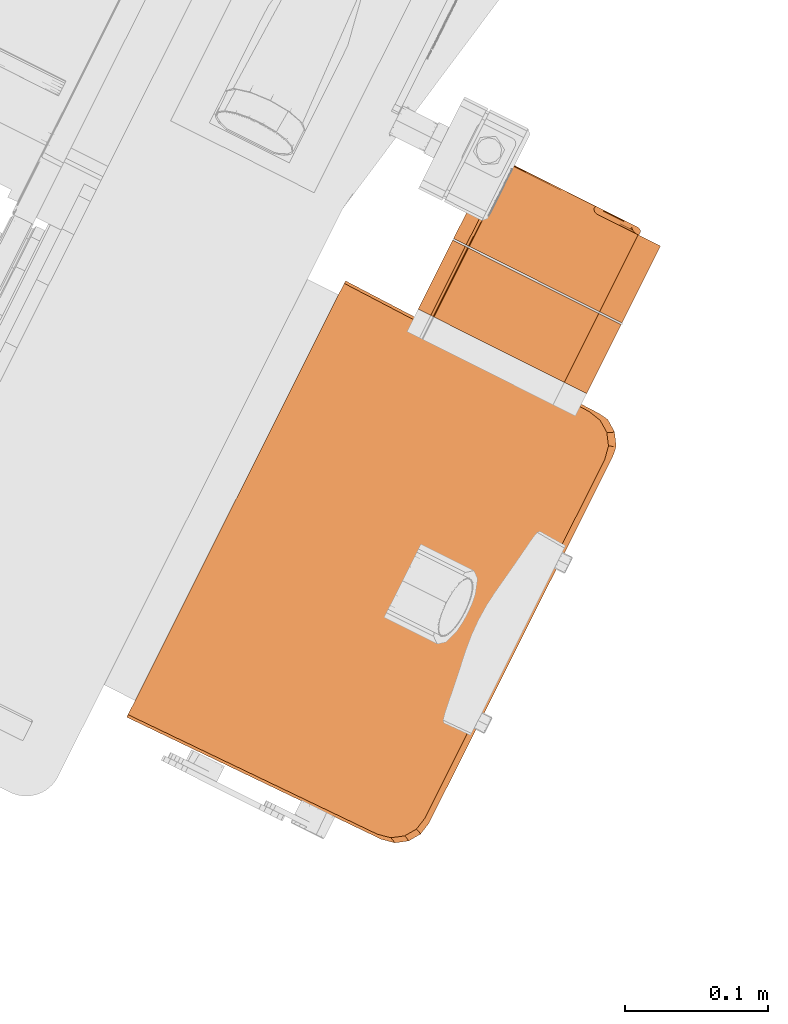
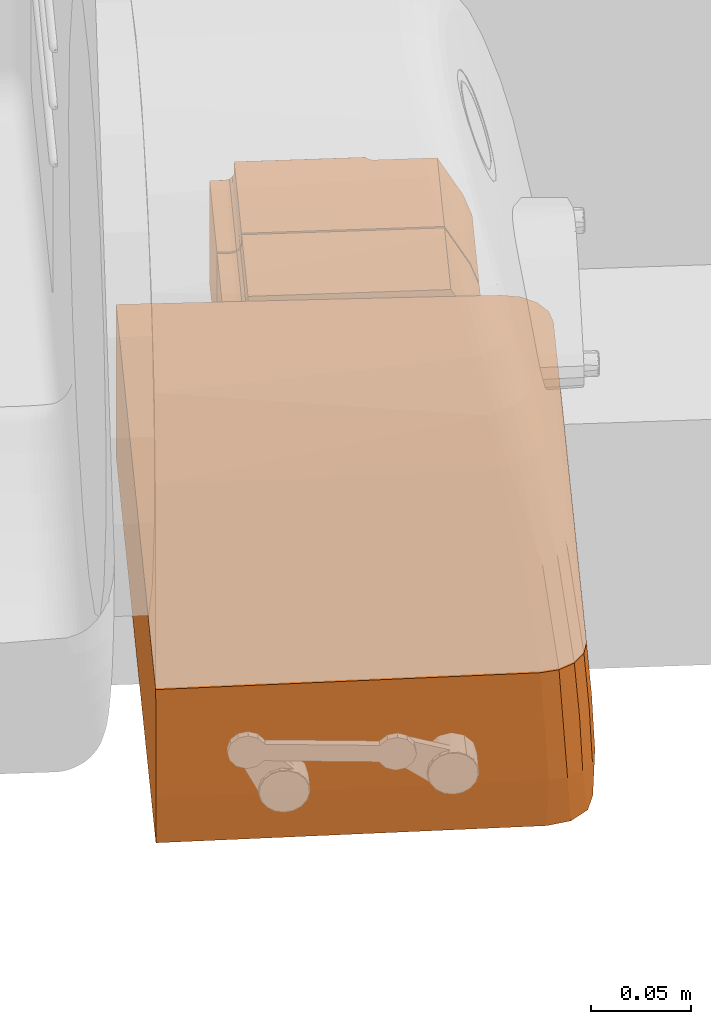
# One storey, part 185 of 206: 3 proxies.
"""IFC2X3 building model written with IfcOpenShell, lengths in metres."""

from ifc_helpers import new_model, si_unit, derived_unit, direction, frame, origin, place, context, subcontext, project, spatial, face_set, faceted_brep, surface_model, source, transform, mapped, material, type_object, type_shapes, element, save


model = new_model("IFC2X3")

# Units and contexts
model_context = context("Model", 3, precision=5.2338327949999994e-05, world=origin(), true_north=direction((0.0, 1.0)))
body_context = subcontext(model_context, "Body", "Model", "MODEL_VIEW")
ifc_project = project(units=[si_unit("LENGTHUNIT", "METRE"), si_unit("AREAUNIT", "SQUARE_METRE"), si_unit("VOLUMEUNIT", "CUBIC_METRE"), si_unit("MASSUNIT", "GRAM", prefix="KILO"), si_unit("PLANEANGLEUNIT", "RADIAN"), derived_unit("THERMALTRANSMITTANCEUNIT", [(si_unit("MASSUNIT", "GRAM", prefix="KILO"), 1), (si_unit("THERMODYNAMICTEMPERATUREUNIT", "KELVIN"), -1), (si_unit("TIMEUNIT", "SECOND"), -3)])], contexts=[model_context])

# Site, building, storey
site_placement = place(None, frame((0.0, 0.0, 0.0), z_axis=(0.0, 0.0, 1.0), x_axis=(0.8939966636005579, -0.4480736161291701, 0.0)))
site = spatial("IfcSite", under=ifc_project, at=site_placement, Name="Default", CompositionType="ELEMENT")
building_placement = place(site_placement, origin())
building = spatial("IfcBuilding", under=site, at=building_placement, CompositionType="ELEMENT")
storey_placement = place(building_placement, origin())
storey = spatial("IfcBuildingStorey", under=building, at=storey_placement, Name="Erdgeschoss", CompositionType="ELEMENT", Elevation=0.0)

# Proxies
ifc_material_1 = material(Name="IfcSurfaceStyle #623543")
building_element_proxy_type_1 = type_object("IfcBuildingElementProxyType", Name="BuildingElementProxy 49:BuildingElementProxy 49", PredefinedType="NOTDEFINED", material=ifc_material_1)
shared_shape_1 = source(origin(), body_context, "Body", "SurfaceModel", [
    surface_model("IfcFaceBasedSurfaceModel", [(21.545196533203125, 4.030391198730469, 0.5663724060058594), (21.738480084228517, 4.0337665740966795, 0.5663724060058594), (21.763087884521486, 4.058703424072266, 0.5663724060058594), (21.747935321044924, 4.0357873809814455, 0.5663724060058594), (21.75591157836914, 4.041218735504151, 0.5663724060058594), (21.76122288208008, 4.049255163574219, 0.5663724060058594), (21.545196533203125, 4.367525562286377, 0.5663724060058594), (21.763087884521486, 4.339213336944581, 0.5663724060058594), (21.738480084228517, 4.364150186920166, 0.5663724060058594), (21.747935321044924, 4.362129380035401, 0.5663724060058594), (21.76122288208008, 4.348661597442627, 0.5663724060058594), (21.75591157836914, 4.356698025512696, 0.5663724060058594), (21.742644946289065, 4.366075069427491, 0.5018291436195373), (21.743303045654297, 4.36605908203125, 0.5016992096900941), (21.759271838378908, 4.358046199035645, 0.5205201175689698), (21.75255364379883, 4.364914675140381, 0.4735553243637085), (21.748630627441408, 4.365617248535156, 0.4917126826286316), (21.764576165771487, 4.34999814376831, 0.5205423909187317), (21.765834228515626, 4.351386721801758, 0.4733483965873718), (21.766720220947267, 4.347811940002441, 0.48819796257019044), (21.76620164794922, 4.350424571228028, 0.4733483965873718), (21.766445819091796, 4.340544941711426, 0.5203512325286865), (21.76719693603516, 4.341091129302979, 0.5018291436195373), (21.7671899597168, 4.3419782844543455, 0.5015948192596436), (21.76716903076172, 4.342729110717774, 0.5010369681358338), (21.767117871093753, 4.343892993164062, 0.4995271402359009), (21.76698997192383, 4.345588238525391, 0.4958865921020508), (21.760520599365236, 4.359466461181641, 0.4733483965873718), (21.752588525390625, 4.364906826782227, 0.4733483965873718), (21.746372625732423, 4.365870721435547, 0.49783821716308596), (21.744877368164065, 4.365985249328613, 0.5003727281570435), (21.74389370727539, 4.366037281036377, 0.5013658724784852), (21.765620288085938, 4.057793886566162, 0.5348021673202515), (21.76719693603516, 4.056825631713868, 0.5018291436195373), (21.76374830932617, 4.048343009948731, 0.5349636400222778), (21.765336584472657, 4.0473619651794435, 0.5018150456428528), (21.758450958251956, 4.040296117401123, 0.5348626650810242), (21.74264959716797, 4.031841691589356, 0.5018291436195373), (21.752074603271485, 4.0338662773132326, 0.5018146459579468), (21.760034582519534, 4.039309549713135, 0.5018097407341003), (21.741654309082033, 4.032818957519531, 0.4733483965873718), (21.75396286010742, 4.0363085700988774, 0.4733483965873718), (21.762929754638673, 4.0454315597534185, 0.4733483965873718), (21.76620164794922, 4.057799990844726, 0.4733483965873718), (21.76716903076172, 4.342729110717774, 0.5010369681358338), (21.545196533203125, 4.368528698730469, 0.4733483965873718), (21.545196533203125, 4.029388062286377, 0.4733483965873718), (21.545196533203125, 4.369523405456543, 0.5018291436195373), (21.545196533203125, 4.028393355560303, 0.5018291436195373)], [face_set([[[0, 1, 2]], [[2, 1, 3]], [[2, 3, 4]], [[4, 5, 2]], [[0, 2, 6]], [[6, 2, 7]], [[6, 7, 8]], [[8, 7, 9]], [[7, 10, 11]], [[7, 11, 9]], [[8, 9, 12]], [[13, 12, 9]], [[9, 11, 14]], [[9, 14, 15]], [[9, 15, 16]], [[11, 10, 14]], [[14, 10, 17]], [[14, 17, 18]], [[18, 17, 19]], [[18, 19, 20]], [[7, 21, 10]], [[10, 21, 17]], [[21, 22, 23]], [[21, 23, 17]], [[17, 23, 24]], [[17, 24, 25]], [[17, 25, 26]], [[17, 26, 19]], [[18, 27, 14]], [[14, 27, 15]], [[27, 28, 15]], [[16, 29, 9]], [[9, 29, 30]], [[9, 30, 31]], [[31, 13, 9]], [[7, 2, 32]], [[7, 32, 21]], [[32, 33, 21]], [[21, 33, 22]], [[2, 5, 32]], [[32, 5, 34]], [[32, 34, 33]], [[33, 34, 35]], [[34, 5, 36]], [[36, 5, 4]], [[36, 4, 3]], [[1, 37, 3]], [[3, 37, 38]], [[3, 38, 36]], [[36, 38, 39]], [[36, 39, 35]], [[35, 34, 36]], [[38, 37, 40]], [[38, 40, 41]], [[38, 41, 39]], [[39, 41, 42]], [[39, 42, 35]], [[35, 42, 43]], [[35, 43, 33]], [[43, 20, 22]], [[22, 20, 19]], [[22, 19, 26]], [[26, 25, 22]], [[22, 25, 44]], [[22, 44, 23]], [[22, 33, 43]], [[28, 27, 18]], [[28, 18, 20]], [[45, 28, 20]], [[45, 20, 43]], [[45, 43, 46]], [[46, 43, 40]], [[43, 42, 40]], [[40, 42, 41]], [[47, 6, 8]], [[47, 8, 12]], [[40, 37, 48]], [[40, 48, 46]], [[12, 13, 31]], [[12, 31, 30]], [[12, 30, 29]], [[12, 29, 16]], [[12, 16, 15]], [[12, 15, 28]], [[28, 45, 12]], [[12, 45, 47]], [[1, 0, 48]], [[1, 48, 37]], [[48, 0, 6]], [[48, 6, 47]], [[48, 47, 46]], [[46, 47, 45]]])]),
])
type_shapes(building_element_proxy_type_1, [shared_shape_1])
proxy_1_placement = place(storey_placement, origin())
element("IfcBuildingElementProxy", 1, at=proxy_1_placement, inside=storey, type_object=building_element_proxy_type_1, material=ifc_material_1, Name="BuildingElementProxy 49", context=body_context, shape_type="MappedRepresentation", body=[
    mapped(shared_shape_1, transform((0.0, 0.0, 0.0), scale=1.0)),
])
ifc_material_2 = material(Name="IfcSurfaceStyle #649647")
building_element_proxy_type_2 = type_object("IfcBuildingElementProxyType", Name="BuildingElementProxy 63:BuildingElementProxy 63", PredefinedType="NOTDEFINED", material=ifc_material_2)
shared_shape_2 = source(origin(), body_context, "Body", "Brep", [
    faceted_brep([(21.611828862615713, 4.428465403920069, 0.4771058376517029), (21.611828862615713, 4.428465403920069, 0.48449493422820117), (21.712913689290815, 4.428465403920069, 0.4771058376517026), (21.611158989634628, 4.428465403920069, 0.48699493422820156), (21.726653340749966, 4.428465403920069, 0.501580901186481), (21.726653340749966, 4.428465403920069, 0.540408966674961), (21.731154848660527, 4.428465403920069, 0.5277246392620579), (21.61115898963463, 4.428465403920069, 0.5549949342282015), (21.60932886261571, 4.428465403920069, 0.48882506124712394), (21.60932886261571, 4.428465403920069, 0.5531648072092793), (21.60682886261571, 4.428465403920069, 0.48949493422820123), (21.606828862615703, 4.428465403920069, 0.5524949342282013), (21.599499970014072, 4.428465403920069, 0.4894949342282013), (21.599499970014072, 4.428465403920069, 0.5524949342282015), (21.713651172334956, 4.428465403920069, 0.5635703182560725), (21.611828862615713, 4.428465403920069, 0.5574949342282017), (21.61182886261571, 4.428465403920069, 0.5635703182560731), (21.731154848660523, 4.428465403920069, 0.5142652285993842), (21.611828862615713, 4.374558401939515, 0.5574949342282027), (21.61115898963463, 4.374558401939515, 0.5549949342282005), (21.60932886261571, 4.374558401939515, 0.553164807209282), (21.606828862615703, 4.374558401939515, 0.5524949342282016), (21.599499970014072, 4.374558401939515, 0.5524949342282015), (21.59949997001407, 4.374558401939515, 0.4894949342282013), (21.60682886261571, 4.374558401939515, 0.48949493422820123), (21.60932886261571, 4.374558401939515, 0.48882506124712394), (21.611158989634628, 4.374558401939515, 0.486994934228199), (21.611828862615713, 4.374558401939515, 0.48449493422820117), (21.611828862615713, 4.374558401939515, 0.4771058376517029), (21.712913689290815, 4.374558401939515, 0.4771058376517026), (21.726653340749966, 4.374558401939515, 0.5015809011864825), (21.73115484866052, 4.374558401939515, 0.5142652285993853), (21.731154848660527, 4.374558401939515, 0.5277246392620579), (21.726653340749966, 4.374558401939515, 0.5404089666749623), (21.713651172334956, 4.374558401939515, 0.5635703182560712), (21.61182886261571, 4.374558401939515, 0.5635703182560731)], [[[0, 1, 2]], [[2, 1, 3]], [[2, 3, 4]], [[4, 3, 5]], [[4, 5, 6]], [[5, 3, 7]], [[7, 3, 8]], [[7, 8, 9]], [[9, 8, 10]], [[9, 10, 11]], [[11, 10, 12]], [[11, 12, 13]], [[5, 7, 14]], [[14, 7, 15]], [[14, 15, 16]], [[6, 17, 4]], [[15, 7, 18]], [[18, 7, 19]], [[7, 9, 19]], [[19, 9, 20]], [[9, 11, 20]], [[20, 11, 21]], [[13, 22, 11]], [[11, 22, 21]], [[12, 23, 13]], [[13, 23, 22]], [[10, 24, 12]], [[12, 24, 23]], [[10, 8, 24]], [[24, 8, 25]], [[8, 3, 25]], [[25, 3, 26]], [[3, 1, 26]], [[26, 1, 27]], [[0, 28, 1]], [[1, 28, 27]], [[2, 29, 0]], [[0, 29, 28]], [[4, 30, 2]], [[2, 30, 29]], [[30, 4, 31]], [[31, 4, 17]], [[31, 17, 32]], [[32, 17, 6]], [[32, 6, 33]], [[33, 6, 5]], [[14, 34, 5]], [[5, 34, 33]], [[16, 35, 14]], [[14, 35, 34]], [[22, 23, 21]], [[21, 23, 24]], [[21, 24, 20]], [[20, 24, 25]], [[20, 25, 19]], [[19, 25, 26]], [[19, 26, 30]], [[30, 26, 29]], [[26, 27, 29]], [[29, 27, 28]], [[31, 32, 30]], [[30, 32, 33]], [[30, 33, 19]], [[19, 33, 34]], [[19, 34, 18]], [[18, 34, 35]], [[15, 18, 16]], [[16, 18, 35]]]),
])
type_shapes(building_element_proxy_type_2, [shared_shape_2])
proxy_2_placement = place(storey_placement, origin())
element("IfcBuildingElementProxy", 2, at=proxy_2_placement, inside=storey, type_object=building_element_proxy_type_2, material=ifc_material_2, Name="BuildingElementProxy 63", context=body_context, shape_type="MappedRepresentation", body=[
    mapped(shared_shape_2, transform((0.0, 0.0, 0.0), scale=1.0)),
])
building_element_proxy_type_3 = type_object("IfcBuildingElementProxyType", Name="BuildingElementProxy 64:BuildingElementProxy 64", PredefinedType="NOTDEFINED", material=ifc_material_1)
shared_shape_3 = source(origin(), body_context, "Body", "SurfaceModel", [
    surface_model("IfcFaceBasedSurfaceModel", [(21.61182967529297, 4.4297583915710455, 0.5635703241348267), (21.61182967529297, 4.4297583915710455, 0.5574949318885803), (21.713651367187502, 4.4297583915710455, 0.5635703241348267), (21.61115994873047, 4.4297583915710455, 0.5549949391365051), (21.726652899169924, 4.4297583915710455, 0.5404089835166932), (21.726652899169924, 4.4297583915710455, 0.5015809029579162), (21.731154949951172, 4.4297583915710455, 0.5142652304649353), (21.61115994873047, 4.4297583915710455, 0.4869949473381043), (21.60932982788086, 4.4297583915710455, 0.5531648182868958), (21.60932982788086, 4.4297583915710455, 0.48882506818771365), (21.606829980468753, 4.4297583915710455, 0.55249494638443), (21.606829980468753, 4.4297583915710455, 0.48949494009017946), (21.5995001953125, 4.4297583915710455, 0.55249494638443), (21.5995001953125, 4.4297583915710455, 0.48949494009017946), (21.71291420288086, 4.4297583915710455, 0.47710583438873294), (21.61182967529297, 4.4297583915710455, 0.48449491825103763), (21.61182967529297, 4.4297583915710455, 0.47710583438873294), (21.731154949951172, 4.4297583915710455, 0.5277246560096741), (21.5995001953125, 4.4915583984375, 0.48949494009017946), (21.606829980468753, 4.4915583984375, 0.48949494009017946), (21.5995001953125, 4.4915583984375, 0.55249494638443), (21.606829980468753, 4.4915583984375, 0.55249494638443), (21.607748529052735, 4.4915583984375, 0.5525800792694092), (21.609460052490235, 4.4915583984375, 0.5532438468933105), (21.61081810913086, 4.4915583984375, 0.5544817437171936), (21.611638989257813, 4.4915583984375, 0.556126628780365), (21.61182967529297, 4.4915583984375, 0.5574949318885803), (21.61182967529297, 4.4915583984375, 0.5635703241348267), (21.713651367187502, 4.489858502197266, 0.5635703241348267), (21.681855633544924, 4.489858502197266, 0.5635703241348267), (21.680518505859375, 4.490060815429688, 0.5635703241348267), (21.679316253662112, 4.4906471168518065, 0.5635703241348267), (21.67837212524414, 4.4915583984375, 0.5635703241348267), (21.726652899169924, 4.445069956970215, 0.5404089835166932), (21.731154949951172, 4.489858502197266, 0.5277246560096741), (21.726652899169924, 4.489858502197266, 0.5404089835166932), (21.731154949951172, 4.489858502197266, 0.5142652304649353), (21.726652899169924, 4.489858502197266, 0.5015809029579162), (21.71428388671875, 4.489858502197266, 0.47954496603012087), (21.71291420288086, 4.4915583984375, 0.47710583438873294), (21.71428388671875, 4.4915583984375, 0.47954496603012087), (21.61182967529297, 4.4915583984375, 0.47710583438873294), (21.61182967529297, 4.4915583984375, 0.48449491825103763), (21.61081810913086, 4.4915583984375, 0.4875081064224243), (21.611304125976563, 4.4915583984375, 0.4867236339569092), (21.611638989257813, 4.4915583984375, 0.48586325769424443), (21.61180642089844, 4.4915583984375, 0.48495626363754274), (21.610197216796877, 4.4915583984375, 0.48818996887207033), (21.609460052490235, 4.4915583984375, 0.4887460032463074), (21.608634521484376, 4.4915583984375, 0.48915727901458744), (21.607748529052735, 4.4915583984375, 0.4894098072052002), (21.678695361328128, 4.493858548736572, 0.5605703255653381), (21.67799075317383, 4.493858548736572, 0.5624964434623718), (21.677853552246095, 4.493378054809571, 0.5629553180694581), (21.706444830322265, 4.493698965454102, 0.48468193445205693), (21.706407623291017, 4.493777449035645, 0.48477774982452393), (21.67802330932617, 4.492156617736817, 0.5635100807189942), (21.707240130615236, 4.4925173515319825, 0.4831739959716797), (21.677848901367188, 4.492781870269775, 0.5633095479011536), (21.706747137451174, 4.493180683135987, 0.48401275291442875), (21.706533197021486, 4.493531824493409, 0.4844666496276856), (21.70858190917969, 4.491256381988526, 0.4816314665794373), (21.710358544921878, 4.49027737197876, 0.480424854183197), (21.71252120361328, 4.489858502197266, 0.47970138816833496), (21.706384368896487, 4.4945585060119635, 0.4848380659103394), (21.706384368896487, 4.493858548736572, 0.4848380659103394), (21.707479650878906, 4.4945585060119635, 0.4828346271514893), (21.70908652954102, 4.4945585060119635, 0.4812145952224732), (21.711084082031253, 4.4945585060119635, 0.48010583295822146), (21.71117942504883, 4.494558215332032, 0.4800701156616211), (21.71244446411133, 4.494256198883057, 0.4797161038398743), (21.71351649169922, 4.491662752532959, 0.4795808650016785), (21.712851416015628, 4.489858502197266, 0.47964757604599), (21.713183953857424, 4.489858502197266, 0.4796073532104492), (21.71351649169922, 4.489858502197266, 0.4795808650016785), (21.71351649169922, 4.493467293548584, 0.4795808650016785), (21.67831864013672, 4.494377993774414, 0.5615950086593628), (21.678695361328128, 4.4945585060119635, 0.5605703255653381), (21.714028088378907, 4.489858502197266, 0.47955488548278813), (21.713772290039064, 4.489858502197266, 0.4795668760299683), (21.714083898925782, 4.492576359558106, 0.47955256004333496), (21.6148294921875, 4.4945585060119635, 0.48010583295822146), (21.6148294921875, 4.4945585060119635, 0.48449491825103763), (21.614794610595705, 4.4945585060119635, 0.48523306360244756), (21.614522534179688, 4.4945585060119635, 0.4866842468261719), (21.613990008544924, 4.4945585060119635, 0.48806083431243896), (21.61321331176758, 4.4945585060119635, 0.48931602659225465), (21.61321331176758, 4.4945585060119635, 0.5526738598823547), (21.612218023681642, 4.4945585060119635, 0.49040702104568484), (21.61104135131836, 4.4945585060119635, 0.550693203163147), (21.61104135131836, 4.4945585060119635, 0.4912966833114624), (21.60971817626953, 4.4945585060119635, 0.49195471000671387), (21.608299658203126, 4.4945585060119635, 0.5496311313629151), (21.608299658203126, 4.4945585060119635, 0.4923587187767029), (21.606829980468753, 4.4945585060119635, 0.5494949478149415), (21.606829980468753, 4.4945585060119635, 0.492494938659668), (21.60250001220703, 4.4945585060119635, 0.5494949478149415), (21.60250001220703, 4.4945585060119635, 0.492494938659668), (21.614522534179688, 4.4945585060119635, 0.5553056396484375), (21.6148294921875, 4.4945585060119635, 0.5574949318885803), (21.6148294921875, 4.4945585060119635, 0.5605703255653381), (21.61368072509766, 4.494330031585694, 0.5617183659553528), (21.61270869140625, 4.4936797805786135, 0.5626916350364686), (21.612057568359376, 4.492706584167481, 0.5633419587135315), (21.611885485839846, 4.492143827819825, 0.5635126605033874), (21.606829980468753, 4.492109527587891, 0.5524438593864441), (21.607785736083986, 4.4926420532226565, 0.5523809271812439), (21.606829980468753, 4.4926420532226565, 0.5522923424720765), (21.606829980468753, 4.493137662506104, 0.552045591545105), (21.60956702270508, 4.4926420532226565, 0.5530716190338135), (21.61098088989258, 4.4926420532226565, 0.5543596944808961), (21.611832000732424, 4.4926420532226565, 0.5560711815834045), (21.61188083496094, 4.492109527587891, 0.5574949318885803), (21.61203198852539, 4.4926420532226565, 0.5574949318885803), (21.612278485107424, 4.493137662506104, 0.5574949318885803), (21.612390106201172, 4.493579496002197, 0.5559123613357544), (21.61261102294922, 4.493579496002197, 0.5574949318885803), (21.61302030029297, 4.493952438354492, 0.5574949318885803), (21.61323656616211, 4.494243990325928, 0.5556715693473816), (21.613492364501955, 4.494243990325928, 0.5574949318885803), (21.614008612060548, 4.4944439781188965, 0.5574949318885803), (21.61425743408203, 4.494545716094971, 0.5553813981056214), (21.61455276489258, 4.494545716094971, 0.5574949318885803), (21.612992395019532, 4.494545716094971, 0.5528406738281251), (21.612145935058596, 4.494243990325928, 0.5534796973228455), (21.610336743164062, 4.494243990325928, 0.5518301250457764), (21.60987398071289, 4.493579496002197, 0.5525781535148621), (21.607890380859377, 4.493579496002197, 0.5518104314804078), (21.610894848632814, 4.494545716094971, 0.5509285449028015), (21.608053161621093, 4.494243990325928, 0.550945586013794), (21.606829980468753, 4.493952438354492, 0.5513028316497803), (21.606829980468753, 4.493579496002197, 0.5517119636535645), (21.608248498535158, 4.494545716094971, 0.5499032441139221), (21.606829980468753, 4.4944439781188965, 0.550315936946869), (21.606829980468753, 4.494243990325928, 0.5508321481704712), (21.606829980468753, 4.494545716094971, 0.5497717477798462), (21.611443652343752, 4.493579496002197, 0.554009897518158), (21.59955833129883, 4.492143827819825, 0.4895525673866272), (21.59955833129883, 4.492143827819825, 0.5524372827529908), (21.599728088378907, 4.492706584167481, 0.5522665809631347), (21.599728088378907, 4.492706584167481, 0.48972330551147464), (21.600379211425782, 4.4936797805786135, 0.5516162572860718), (21.600379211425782, 4.4936797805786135, 0.4903736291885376), (21.60135124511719, 4.494330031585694, 0.550642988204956), (21.60135124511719, 4.494330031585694, 0.49134689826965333), (21.606829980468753, 4.492109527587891, 0.4895460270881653), (21.606829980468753, 4.493952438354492, 0.49068701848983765), (21.606829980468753, 4.493579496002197, 0.49027792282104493), (21.606829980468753, 4.493137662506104, 0.4899442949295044), (21.606829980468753, 4.4926420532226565, 0.48969750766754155), (21.606829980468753, 4.494243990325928, 0.49115770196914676), (21.606829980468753, 4.4944439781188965, 0.4916739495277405), (21.606829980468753, 4.494545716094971, 0.4922181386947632), (21.61188083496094, 4.492109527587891, 0.48449491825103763), (21.61200873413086, 4.4926420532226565, 0.4849749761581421), (21.61203198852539, 4.4926420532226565, 0.48449491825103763), (21.612278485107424, 4.493137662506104, 0.48449491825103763), (21.611485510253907, 4.4926420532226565, 0.48681392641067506), (21.612006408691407, 4.493579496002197, 0.4870726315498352), (21.610725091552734, 4.493579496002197, 0.48876860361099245), (21.611318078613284, 4.494243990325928, 0.48941878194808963), (21.609236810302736, 4.494243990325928, 0.49070780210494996), (21.609618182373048, 4.494545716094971, 0.491696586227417), (21.610334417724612, 4.4926420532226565, 0.4883397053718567), (21.608708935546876, 4.4926420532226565, 0.4893461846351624), (21.608918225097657, 4.493579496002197, 0.48988739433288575), (21.61203198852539, 4.494545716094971, 0.49020245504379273), (21.61374351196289, 4.494545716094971, 0.48793744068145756), (21.614520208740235, 4.494545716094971, 0.4852075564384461), (21.61455276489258, 4.494545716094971, 0.48449491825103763), (21.614008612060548, 4.4944439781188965, 0.48449491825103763), (21.613462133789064, 4.494243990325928, 0.48510970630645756), (21.612792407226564, 4.494243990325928, 0.48746479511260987), (21.613492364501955, 4.494243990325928, 0.48449491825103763), (21.61302030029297, 4.493952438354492, 0.48449491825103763), (21.61258776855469, 4.493579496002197, 0.4850285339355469), (21.61261102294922, 4.493579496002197, 0.48449491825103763), (21.61368072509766, 4.494330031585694, 0.4789577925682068), (21.61270869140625, 4.4936797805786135, 0.4779845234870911), (21.612057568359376, 4.492706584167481, 0.4773341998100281), (21.611885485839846, 4.492143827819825, 0.47716349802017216), (21.711844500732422, 4.494319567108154, 0.47893308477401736), (21.71240725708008, 4.493666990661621, 0.47797191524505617), (21.71278165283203, 4.492698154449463, 0.4773307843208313)], [face_set([[[0, 1, 2]], [[2, 1, 3]], [[4, 2, 3]], [[5, 4, 3]], [[4, 5, 6]], [[5, 3, 7]], [[7, 3, 8]], [[7, 8, 9]], [[9, 8, 10]], [[9, 10, 11]], [[11, 10, 12]], [[11, 12, 13]], [[5, 7, 14]], [[14, 7, 15]], [[14, 15, 16]], [[6, 17, 4]], [[13, 18, 11]], [[11, 18, 19]], [[12, 20, 13]], [[13, 20, 18]], [[10, 21, 12]], [[12, 21, 20]], [[21, 10, 22]], [[22, 10, 8]], [[22, 8, 23]], [[24, 23, 8]], [[8, 3, 24]], [[24, 3, 25]], [[3, 1, 25]], [[25, 1, 26]], [[0, 27, 1]], [[1, 27, 26]], [[28, 29, 2]], [[2, 29, 30]], [[2, 30, 0]], [[0, 30, 31]], [[0, 31, 32]], [[32, 27, 0]], [[4, 17, 33]], [[34, 33, 17]], [[33, 34, 35]], [[34, 17, 36]], [[36, 17, 6]], [[36, 6, 37]], [[37, 6, 5]], [[37, 5, 38]], [[38, 5, 14]], [[39, 38, 14]], [[39, 40, 38]], [[16, 41, 14]], [[14, 41, 39]], [[15, 42, 16]], [[16, 42, 41]], [[43, 44, 7]], [[7, 44, 45]], [[7, 45, 15]], [[15, 45, 46]], [[15, 46, 42]], [[47, 43, 7]], [[47, 7, 9]], [[47, 9, 48]], [[48, 9, 49]], [[50, 49, 9]], [[50, 9, 11]], [[50, 11, 19]], [[51, 52, 53]], [[54, 51, 53]], [[51, 54, 55]], [[56, 57, 58]], [[58, 57, 59]], [[58, 59, 53]], [[53, 59, 60]], [[53, 60, 54]], [[56, 32, 57]], [[61, 57, 32]], [[32, 31, 61]], [[62, 61, 31]], [[31, 30, 62]], [[63, 62, 30]], [[30, 29, 63]], [[55, 64, 65]], [[64, 55, 54]], [[64, 54, 60]], [[64, 60, 59]], [[64, 59, 66]], [[59, 57, 66]], [[66, 57, 61]], [[66, 61, 67]], [[67, 61, 62]], [[67, 62, 68]], [[69, 68, 62]], [[62, 63, 69]], [[69, 63, 70]], [[70, 63, 71]], [[71, 63, 72]], [[71, 72, 73]], [[73, 74, 71]], [[71, 75, 70]], [[52, 51, 76]], [[76, 51, 77]], [[65, 64, 51]], [[51, 64, 77]], [[29, 28, 35]], [[29, 35, 37]], [[29, 37, 63]], [[63, 37, 78]], [[63, 78, 79]], [[35, 34, 36]], [[35, 36, 37]], [[37, 38, 78]], [[79, 74, 63]], [[63, 74, 73]], [[63, 73, 72]], [[38, 40, 78]], [[78, 40, 80]], [[79, 78, 80]], [[79, 80, 71]], [[79, 71, 74]], [[71, 80, 75]], [[66, 81, 64]], [[64, 81, 82]], [[64, 82, 83]], [[81, 66, 67]], [[81, 67, 68]], [[64, 83, 84]], [[64, 84, 85]], [[64, 85, 77]], [[77, 85, 86]], [[77, 86, 87]], [[87, 86, 88]], [[87, 88, 89]], [[89, 88, 90]], [[89, 90, 91]], [[89, 91, 92]], [[92, 91, 93]], [[92, 93, 94]], [[94, 93, 95]], [[94, 95, 96]], [[96, 95, 97]], [[87, 98, 77]], [[77, 98, 99]], [[77, 99, 100]], [[77, 100, 76]], [[76, 100, 101]], [[76, 101, 52]], [[52, 101, 102]], [[52, 102, 53]], [[53, 102, 103]], [[53, 103, 58]], [[58, 103, 104]], [[56, 58, 104]], [[32, 56, 104]], [[32, 104, 27]], [[4, 33, 2]], [[2, 33, 28]], [[33, 35, 28]], [[105, 21, 22]], [[105, 22, 106]], [[105, 106, 107]], [[108, 107, 106]], [[106, 22, 109]], [[109, 22, 23]], [[109, 23, 110]], [[110, 23, 24]], [[110, 24, 111]], [[111, 24, 25]], [[111, 25, 112]], [[112, 25, 26]], [[112, 113, 111]], [[111, 113, 114]], [[111, 114, 115]], [[115, 114, 116]], [[115, 116, 117]], [[115, 117, 118]], [[118, 117, 119]], [[118, 119, 120]], [[118, 120, 121]], [[121, 120, 122]], [[121, 122, 99]], [[99, 98, 121]], [[123, 121, 98]], [[121, 123, 124]], [[125, 124, 123]], [[124, 125, 126]], [[127, 126, 125]], [[126, 127, 106]], [[106, 127, 108]], [[98, 87, 123]], [[128, 123, 87]], [[123, 128, 125]], [[129, 125, 128]], [[125, 129, 127]], [[127, 129, 130]], [[127, 130, 131]], [[87, 89, 128]], [[132, 128, 89]], [[128, 132, 129]], [[129, 132, 133]], [[129, 133, 134]], [[89, 92, 132]], [[135, 132, 92]], [[132, 135, 133]], [[92, 94, 135]], [[134, 130, 129]], [[131, 108, 127]], [[106, 109, 126]], [[126, 109, 136]], [[126, 136, 124]], [[124, 136, 118]], [[124, 118, 121]], [[109, 110, 136]], [[136, 110, 115]], [[136, 115, 118]], [[110, 111, 115]], [[18, 20, 137]], [[137, 20, 138]], [[137, 138, 139]], [[137, 139, 140]], [[140, 139, 141]], [[140, 141, 142]], [[142, 141, 143]], [[142, 143, 144]], [[144, 143, 96]], [[144, 96, 97]], [[145, 19, 18]], [[145, 18, 137]], [[145, 137, 140]], [[146, 147, 142]], [[142, 147, 148]], [[140, 142, 148]], [[140, 148, 149]], [[140, 149, 145]], [[142, 144, 146]], [[146, 144, 150]], [[150, 144, 151]], [[151, 144, 97]], [[151, 97, 152]], [[152, 97, 95]], [[153, 42, 46]], [[154, 153, 46]], [[153, 154, 155]], [[156, 155, 154]], [[154, 46, 45]], [[154, 45, 157]], [[154, 157, 158]], [[158, 157, 159]], [[158, 159, 160]], [[160, 159, 161]], [[160, 161, 162]], [[162, 161, 151]], [[162, 151, 152]], [[45, 44, 157]], [[157, 44, 43]], [[157, 43, 163]], [[163, 43, 47]], [[163, 47, 48]], [[163, 48, 164]], [[164, 48, 49]], [[164, 49, 50]], [[50, 19, 145]], [[50, 145, 149]], [[50, 149, 164]], [[164, 149, 148]], [[164, 148, 165]], [[165, 148, 147]], [[165, 147, 146]], [[165, 146, 161]], [[161, 146, 150]], [[161, 150, 151]], [[95, 93, 152]], [[152, 93, 162]], [[93, 91, 162]], [[162, 91, 90]], [[162, 90, 166]], [[166, 90, 88]], [[166, 88, 86]], [[166, 86, 167]], [[167, 86, 85]], [[167, 85, 84]], [[167, 84, 168]], [[168, 84, 83]], [[169, 168, 83]], [[169, 83, 82]], [[169, 170, 168]], [[168, 170, 171]], [[168, 171, 167]], [[167, 171, 172]], [[167, 172, 166]], [[166, 172, 160]], [[166, 160, 162]], [[170, 173, 171]], [[171, 173, 174]], [[171, 174, 175]], [[175, 174, 176]], [[175, 176, 156]], [[175, 156, 154]], [[175, 154, 158]], [[175, 158, 172]], [[172, 158, 160]], [[171, 175, 172]], [[157, 163, 159]], [[159, 163, 165]], [[159, 165, 161]], [[163, 164, 165]], [[169, 82, 81]], [[170, 169, 81]], [[170, 81, 177]], [[170, 177, 173]], [[174, 173, 177]], [[174, 177, 178]], [[174, 178, 176]], [[156, 176, 178]], [[156, 178, 179]], [[156, 179, 155]], [[155, 179, 180]], [[155, 180, 153]], [[41, 42, 180]], [[180, 42, 153]], [[69, 81, 68]], [[81, 69, 181]], [[177, 81, 181]], [[177, 181, 182]], [[178, 177, 182]], [[178, 182, 183]], [[179, 178, 183]], [[180, 179, 183]], [[180, 183, 39]], [[41, 180, 39]], [[69, 70, 181]], [[182, 181, 70]], [[70, 75, 182]], [[183, 182, 75]], [[75, 80, 183]], [[39, 183, 80]], [[80, 40, 39]], [[99, 122, 100]], [[100, 122, 120]], [[101, 100, 120]], [[101, 120, 119]], [[101, 119, 117]], [[102, 101, 117]], [[102, 117, 116]], [[102, 116, 114]], [[103, 102, 114]], [[103, 114, 113]], [[103, 113, 112]], [[26, 27, 112]], [[112, 27, 104]], [[112, 104, 103]], [[135, 94, 96]], [[133, 135, 96]], [[133, 96, 143]], [[133, 143, 134]], [[130, 134, 143]], [[130, 143, 141]], [[130, 141, 131]], [[108, 131, 141]], [[108, 141, 139]], [[108, 139, 107]], [[107, 139, 138]], [[107, 138, 105]], [[20, 21, 138]], [[138, 21, 105]]])]),
])
type_shapes(building_element_proxy_type_3, [shared_shape_3])
proxy_3_placement = place(storey_placement, origin())
element("IfcBuildingElementProxy", 3, at=proxy_3_placement, inside=storey, type_object=building_element_proxy_type_3, material=ifc_material_1, Name="BuildingElementProxy 64", context=body_context, shape_type="MappedRepresentation", body=[
    mapped(shared_shape_3, transform((0.0, 0.0, 0.0), scale=1.0)),
])

save(model, "model.ifc")
